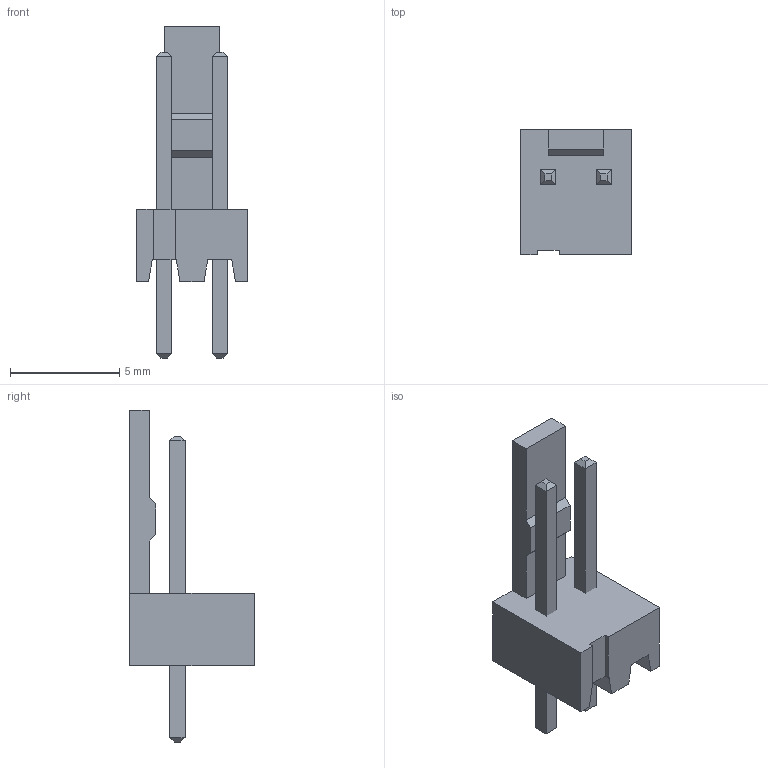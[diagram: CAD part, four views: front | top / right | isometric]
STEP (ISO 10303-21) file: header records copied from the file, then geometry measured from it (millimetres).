
FILE_DESCRIPTION(('FreeCAD Model'),'2;1');
FILE_NAME('Open CASCADE Shape Model','2023-09-05T14:17:05',(''),(''), 'Open CASCADE STEP processor 7.6','FreeCAD','Unknown');
FILE_SCHEMA(('AUTOMOTIVE_DESIGN { 1 0 10303 214 1 1 1 1 }'));
Length unit declared in the file: millimetre
Products named in the file (4): ns25-w2p; w2p_pin01; w2p_pin02; w2p_bodybody
Assembly tree (3 placements, depth 2):
  ns25-w2p
    w2p_pin01
    w2p_pin02
    w2p_bodybody
Bounding box: 5.08 x 5.71 x 15.2 mm (x, y, z)
Volume: 111.7 mm3; surface area: 295.5 mm2
Topology: 3 solids, 3 shells, 64 faces, 152 edges, 96 vertices
Faces by surface type: plane 64
Entity records: 1881 total; most frequent: CARTESIAN_POINT 316, ORIENTED_EDGE 304, DIRECTION 288, EDGE_CURVE 152, LINE 152, VECTOR 152, VERTEX_POINT 96, AXIS2_PLACEMENT_3D 68
